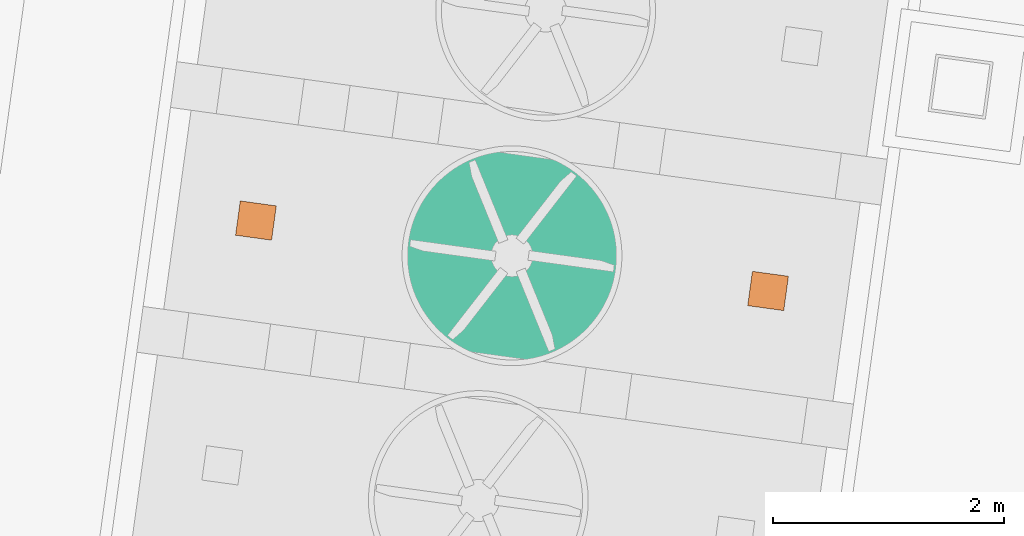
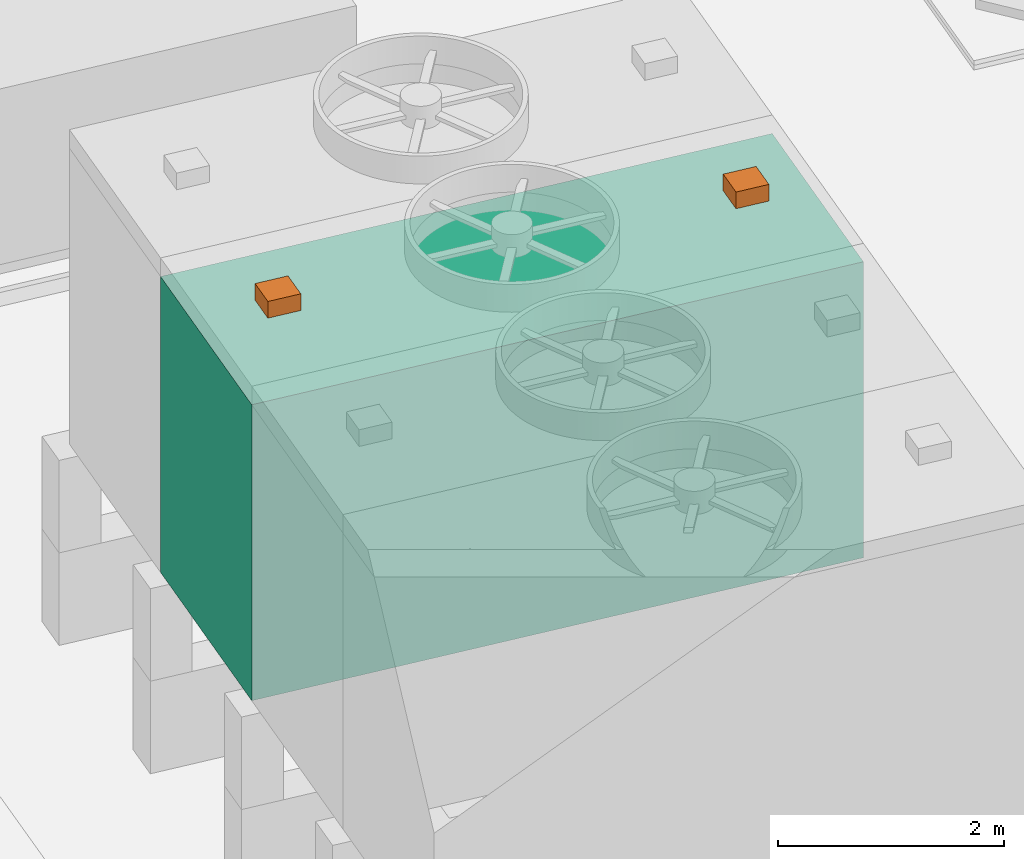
# Not in any storey, part 41 of 75: 2 proxies, 1 cooling tower.
"""IFC4 model written with IfcOpenShell, lengths in metres."""

from ifc_helpers import new_model, si_unit, direction, origin_with_axes, place, context, subcontext, project, spatial, triangles, element, aggregate, save


model = new_model("IFC4")

# Units and contexts
model_context = context("Model", 3, precision=1e-05, world=origin_with_axes(), true_north=direction((0.0, 1.0)))
body_context = subcontext(model_context, "Body", "Model", "MODEL_VIEW")
ifc_project = project(units=[si_unit("AREAUNIT", "SQUARE_METRE"), si_unit("VOLUMEUNIT", "CUBIC_METRE"), si_unit("LENGTHUNIT", "METRE")], contexts=[model_context])

# Site
site_placement = place(None, origin_with_axes())
site = spatial("IfcSite", under=ifc_project, at=site_placement, Name="Parcela industrial Jinhong")

# Cooling tower, proxies
cooling_tower_placement = place(site_placement, origin_with_axes())
cooling_tower = element("IfcCoolingTower", 1, at=cooling_tower_placement, inside=site, Name="Torre de refrigeración WT3001B · Envolvente del cuerpo de la torre", ObjectType="Envolvente de equipo", PredefinedType="USERDEFINED", context=body_context, shape_type="Tessellation", body=[
    triangles([(42.240363, 46.344292, 6.3), (36.736357, 49.261142, 6.3), (36.44488, 47.141085, 6.3), (36.736357, 49.261142, 3.1), (42.240363, 46.344292, 3.1), (36.44488, 47.141085, 3.1), (42.53184, 48.464349, 6.3), (42.53184, 48.464349, 3.1)], [[1, 2, 3], [4, 5, 6], [1, 7, 2], [5, 4, 8], [5, 8, 7], [5, 7, 1], [8, 4, 2], [7, 8, 2], [3, 4, 6], [4, 3, 2], [6, 5, 1], [3, 6, 1]], closed=True),
])
proxy_1_placement = place(cooling_tower_placement, origin_with_axes())
proxy_1 = element("IfcBuildingElementProxy", 2, at=proxy_1_placement, Name="Torre de refrigeración WT3001B · Montaje lateral indicado en planta", context=body_context, shape_type="Tessellation", body=[
    triangles([(37.447184, 48.234759, 6.68), (37.13512, 48.277664, 6.68), (37.406323, 47.937555, 6.68), (37.13512, 48.277664, 6.5), (37.447184, 48.234759, 6.5), (37.406323, 47.937555, 6.5), (37.094259, 47.980459, 6.68), (37.094259, 47.980459, 6.5)], [[1, 2, 3], [4, 5, 6], [2, 7, 3], [6, 8, 4], [7, 4, 8], [4, 7, 2], [8, 6, 3], [7, 8, 3], [5, 1, 6], [1, 3, 6], [5, 4, 2], [5, 2, 1]], closed=True),
])
proxy_2_placement = place(cooling_tower_placement, origin_with_axes())
proxy_2 = element("IfcBuildingElementProxy", 3, at=proxy_2_placement, Name="Torre de refrigeración WT3001B · Montaje lateral indicado en planta", context=body_context, shape_type="Tessellation", body=[
    triangles([(41.882461, 47.624974, 6.68), (41.529536, 47.370674, 6.68), (41.8416, 47.32777, 6.68), (41.529536, 47.370674, 6.5), (41.882461, 47.624974, 6.5), (41.8416, 47.32777, 6.5), (41.570397, 47.667879, 6.68), (41.570397, 47.667879, 6.5)], [[1, 2, 3], [4, 5, 6], [2, 1, 7], [4, 8, 5], [7, 5, 8], [5, 7, 1], [4, 2, 8], [8, 2, 7], [3, 4, 6], [4, 3, 2], [5, 1, 6], [1, 3, 6]], closed=True),
])
aggregate(cooling_tower, [proxy_1, proxy_2])

save(model, "model.ifc")
